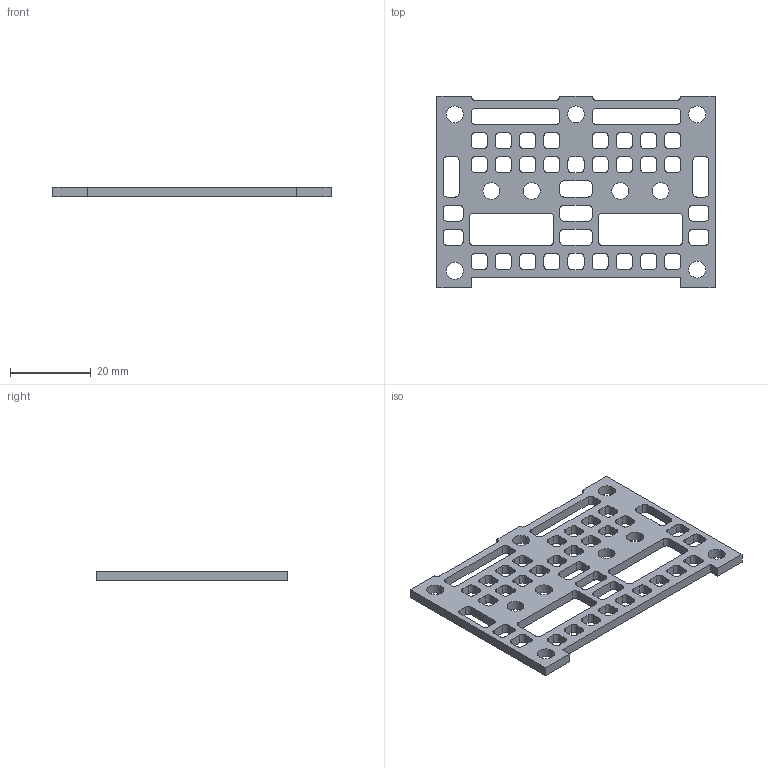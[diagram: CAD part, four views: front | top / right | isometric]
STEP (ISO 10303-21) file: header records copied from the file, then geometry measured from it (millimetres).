
FILE_DESCRIPTION(/* description */ ('','CAx-IF Rec.Pracs.---Representation and Presentation of Product Manufacturing Information (PMI)---4.0---2014-10-13'),/* implementation_level */ '2;1');
FILE_NAME(/* name */ 'G:\Alle CAD Daten\CAMTEC_2020_Pack and Go\PSU CPS-i3000 - CPS-i2000\3011127001KZ.stp',/* time_stamp */ '2020-09-20T22:35:29+02:00',/* author */ ('rryba'),/* organization */ (''),/* preprocessor_version */ 'ST-DEVELOPER v18.1',/* originating_system */ 'Autodesk Inventor 2021',/* authorisation */ '');
FILE_SCHEMA (('AP242_MANAGED_MODEL_BASED_3D_ENGINEERING_MIM_LF { 1 0 10303 442 1 1 4 }'));
Length unit declared in the file: millimetre
Products named in the file (1): 3011127001KZ
Bounding box: 69 x 47.5 x 2.4 mm (x, y, z)
Volume: 4390 mm3; surface area: 6365.7 mm2
Topology: 1 solids, 1 shells, 339 faces, 1352 edges, 1343 vertices
Faces by surface type: plane 170, cylinder 169
Full cylindrical faces by diameter (mm): 4.2 x9
Entity records: 13909 total; most frequent: CARTESIAN_POINT 2858, DIRECTION 2367, ORIENTED_EDGE 2022, EDGE_CURVE 1011, AXIS2_PLACEMENT_3D 847, VERTEX_POINT 674, LINE 673, VECTOR 673
